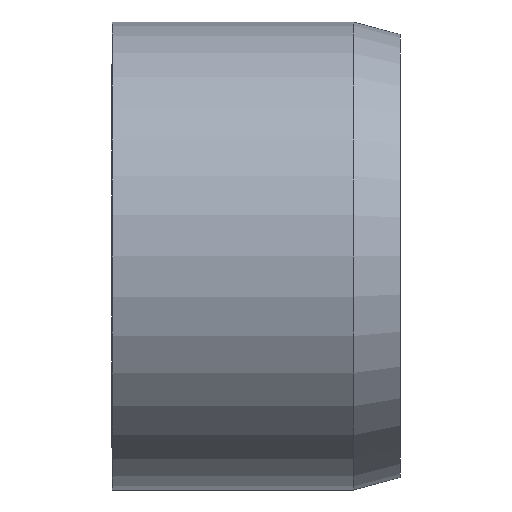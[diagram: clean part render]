
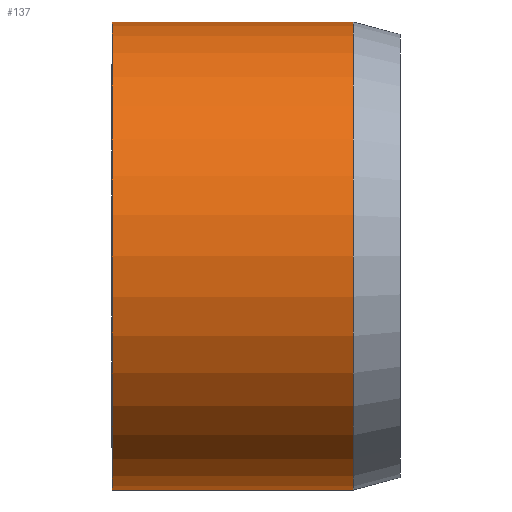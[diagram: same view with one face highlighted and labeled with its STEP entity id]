
A CAD part, left-side view. The second image highlights one B-rep face of the part: STEP entity #137.
In plain terms, the highlighted cylindrical face has radius 13 mm (diameter 26 mm), a partial arc.
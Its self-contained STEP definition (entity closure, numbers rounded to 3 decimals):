
#3 = DIRECTION ( 'NONE',  ( 0., 0., -1. ) ) ;
#19 = CIRCLE ( 'NONE', #286, 13. ) ;
#26 = ORIENTED_EDGE ( 'NONE', *, *, #370, .F. ) ;
#31 = ORIENTED_EDGE ( 'NONE', *, *, #327, .F. ) ;
#40 = FACE_OUTER_BOUND ( 'NONE', #107, .T. ) ;
#44 = CARTESIAN_POINT ( 'NONE',  ( 0., 0., 13. ) ) ;
#63 = VERTEX_POINT ( 'NONE', #441 ) ;
#64 = CARTESIAN_POINT ( 'NONE',  ( 0., 2.6, -13. ) ) ;
#107 = EDGE_LOOP ( 'NONE', ( #31, #347, #155, #26 ) ) ;
#110 = VERTEX_POINT ( 'NONE', #116 ) ;
#112 = CYLINDRICAL_SURFACE ( 'NONE', #161, 13. ) ;
#116 = CARTESIAN_POINT ( 'NONE',  ( 0., 2.6, 13. ) ) ;
#137 = ADVANCED_FACE ( 'NONE', ( #40 ), #112, .T. ) ;
#148 = DIRECTION ( 'NONE',  ( 0., -1., 0. ) ) ;
#155 = ORIENTED_EDGE ( 'NONE', *, *, #205, .T. ) ;
#161 = AXIS2_PLACEMENT_3D ( 'NONE', #260, #186, #331 ) ;
#184 = DIRECTION ( 'NONE',  ( 0., -1., 0. ) ) ;
#186 = DIRECTION ( 'NONE',  ( 0., -1., 0. ) ) ;
#205 = EDGE_CURVE ( 'NONE', #354, #437, #308, .T. ) ;
#217 = CARTESIAN_POINT ( 'NONE',  ( 0., 16., 0. ) ) ;
#249 = VECTOR ( 'NONE', #148, 1000. ) ;
#260 = CARTESIAN_POINT ( 'NONE',  ( 0., 0., 0. ) ) ;
#262 = LINE ( 'NONE', #44, #249 ) ;
#269 = VECTOR ( 'NONE', #387, 1000. ) ;
#280 = CARTESIAN_POINT ( 'NONE',  ( 0., 16., -13. ) ) ;
#286 = AXIS2_PLACEMENT_3D ( 'NONE', #305, #316, #313 ) ;
#305 = CARTESIAN_POINT ( 'NONE',  ( 0., 2.6, 0. ) ) ;
#308 = LINE ( 'NONE', #452, #269 ) ;
#313 = DIRECTION ( 'NONE',  ( 0., 0., -1. ) ) ;
#316 = DIRECTION ( 'NONE',  ( 0., -1., 0. ) ) ;
#325 = EDGE_CURVE ( 'NONE', #63, #354, #389, .T. ) ;
#327 = EDGE_CURVE ( 'NONE', #63, #110, #262, .T. ) ;
#331 = DIRECTION ( 'NONE',  ( 0., 0., -1. ) ) ;
#347 = ORIENTED_EDGE ( 'NONE', *, *, #325, .T. ) ;
#354 = VERTEX_POINT ( 'NONE', #280 ) ;
#370 = EDGE_CURVE ( 'NONE', #110, #437, #19, .T. ) ;
#387 = DIRECTION ( 'NONE',  ( 0., -1., 0. ) ) ;
#389 = CIRCLE ( 'NONE', #446, 13. ) ;
#437 = VERTEX_POINT ( 'NONE', #64 ) ;
#441 = CARTESIAN_POINT ( 'NONE',  ( 0., 16., 13. ) ) ;
#446 = AXIS2_PLACEMENT_3D ( 'NONE', #217, #184, #3 ) ;
#452 = CARTESIAN_POINT ( 'NONE',  ( 0., 0., -13. ) ) ;
